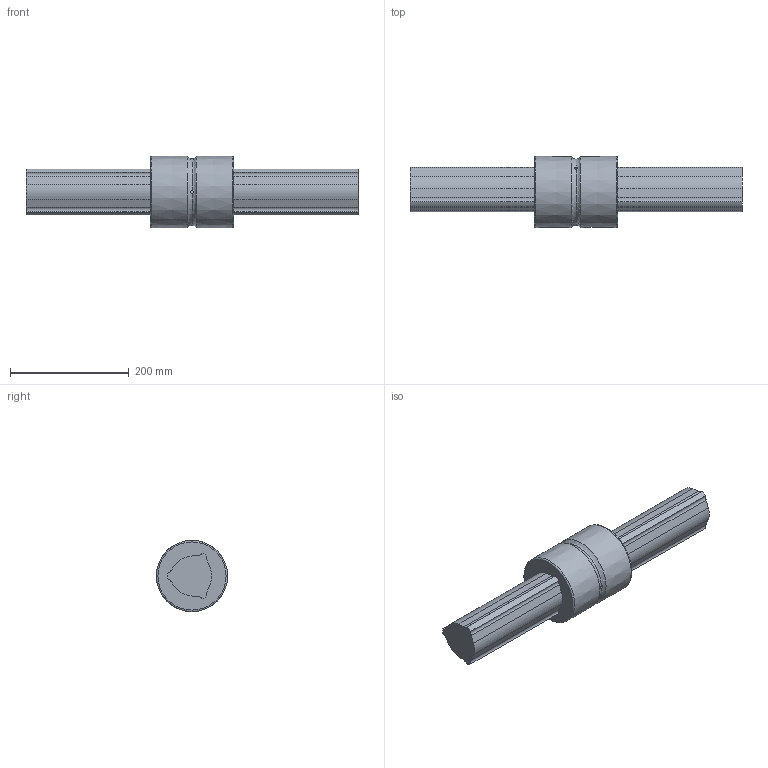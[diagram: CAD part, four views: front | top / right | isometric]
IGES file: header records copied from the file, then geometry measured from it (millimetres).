
Start section: Data from Parasolid IGES Translator 26.0.171, Copyright(c) 2006 Siemens PLM Software. All Rights Reserved.
Global section: file name: LBS85+560L(1402100).igs; native system: By Siemens PLM Incorporated; preprocessor: XPlus GENERIC/IGES 26.0.171; author: Noname; organization: Noname; date: 20240523.115842; units: millimetre
Bounding box: 560 x 120 x 120 mm (x, y, z)
Surface area: 247776.7 mm2 (no closed solid volume)
Topology: 0 solids, 0 shells, 63 faces, 338 edges, 330 vertices
Faces by surface type: revolution 41, extrusion 22
